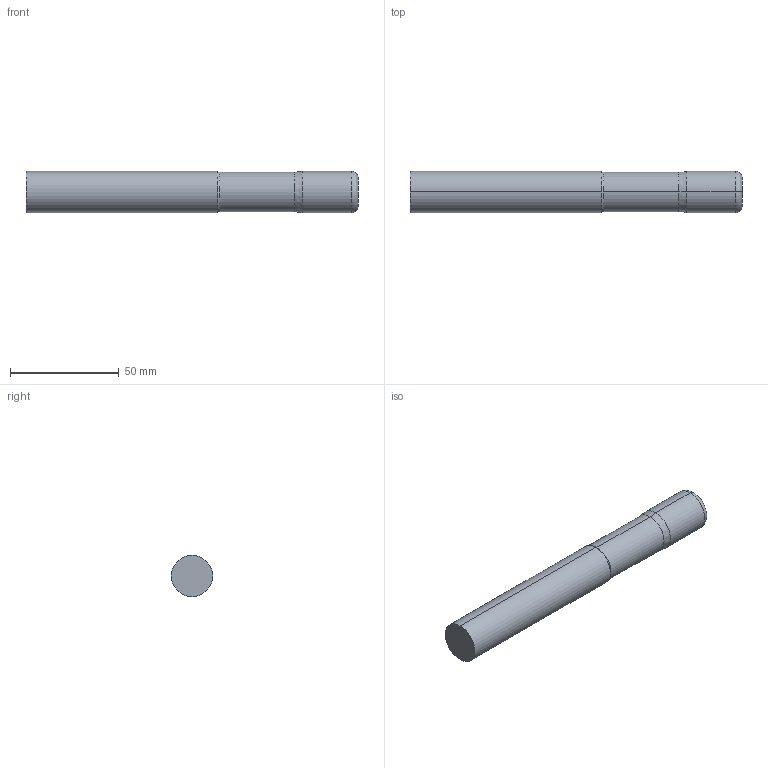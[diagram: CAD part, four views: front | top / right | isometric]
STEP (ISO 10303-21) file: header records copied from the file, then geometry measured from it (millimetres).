
FILE_DESCRIPTION (( 'STEP AP214' ), '1' );
FILE_NAME ('SSIRNM50750-120.STEP', '2025-05-28T18:52:43', ( '' ), ( '' ), 'SwSTEP 2.0', 'SolidWorks 2023', '' );
FILE_SCHEMA (( 'AUTOMOTIVE_DESIGN' ));
Length unit declared in the file: inch
Products named in the file (3): SSI5 Imperial SHANK ONLY_SSIRNM50750-120; SSIRNM50750-120; SSI5 Imperial LOC ONLY_SSIRNM50750-120
Assembly tree (2 placements, depth 2):
  SSIRNM50750-120
    SSI5 Imperial LOC ONLY_SSIRNM50750-120
    SSI5 Imperial SHANK ONLY_SSIRNM50750-120
Bounding box: 152.4 x 19.05 x 19.05 mm (x, y, z)
Volume: 42373.4 mm3; surface area: 10084.5 mm2
Topology: 2 solids, 2 shells, 16 faces, 28 edges, 16 vertices
Faces by surface type: cylinder 6, plane 4, cone 4, torus 2
Entity records: 562 total; most frequent: DIRECTION 88, CARTESIAN_POINT 65, ORIENTED_EDGE 56, AXIS2_PLACEMENT_3D 39, EDGE_CURVE 28, CIRCLE 18, FACE_OUTER_BOUND 16, VERTEX_POINT 16
